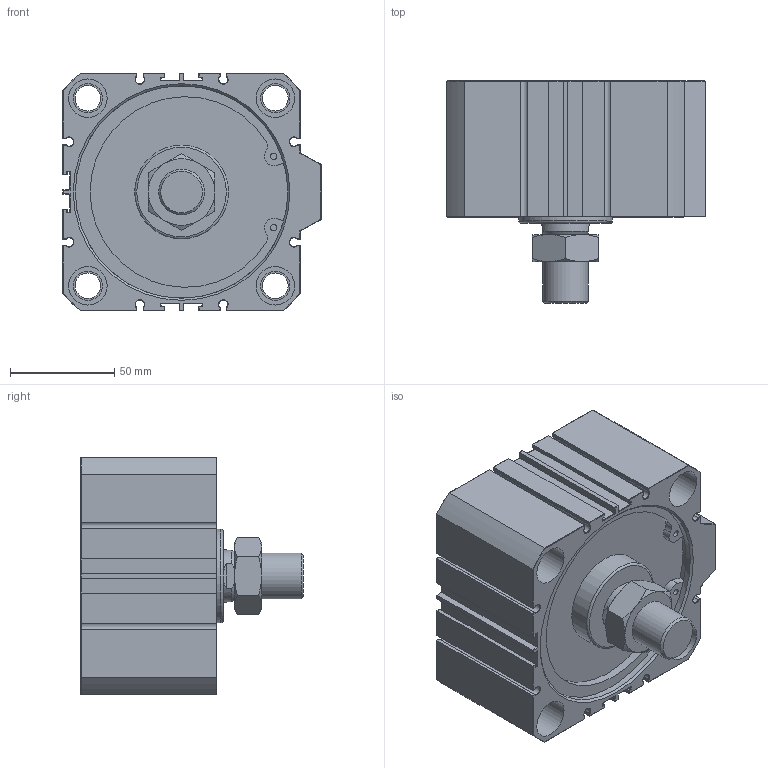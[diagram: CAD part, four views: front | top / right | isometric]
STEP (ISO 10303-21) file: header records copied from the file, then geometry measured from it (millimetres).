
FILE_DESCRIPTION(/* description */ (''),/* implementation_level */ '2;1');
FILE_NAME(/* name */ 'AJC-SD100X20W',/* time_stamp */ '2019-06-18T15:59:48+08:00',/* author */ ('JEFF HUANG'),/* organization */ ('TAIWAN AMAC CLAMP INDUSTRIAL CO., LTD.'),/* preprocessor_version */ 'ST-DEVELOPER v16.7',/* originating_system */ 'DEX',/* authorisation */ $);
FILE_SCHEMA (('AUTOMOTIVE_DESIGN {1 0 10303 214 3 1 1}'));
Length unit declared in the file: millimetre
Products named in the file (1): AJC-SD100X20W
Bounding box: 124 x 106.8 x 114 mm (x, y, z)
Volume: 722954.4 mm3; surface area: 88551.4 mm2
Topology: 1 solids, 1 shells, 403 faces, 901 edges, 497 vertices
Faces by surface type: plane 253, cone 75, cylinder 73, torus 2
Full cylindrical faces by diameter (mm): 3 x4, 12.3 x4, 14 x8, 15.806 x2, 18.5 x8, 22 x1, 45 x1, 55 x1, 102 x2
Entity records: 13253 total; most frequent: CARTESIAN_POINT 1866, DIRECTION 1788, ORIENTED_EDGE 1654, EDGE_CURVE 827, AXIS2_PLACEMENT_3D 601, LINE 586, VECTOR 586, VERTEX_POINT 493
